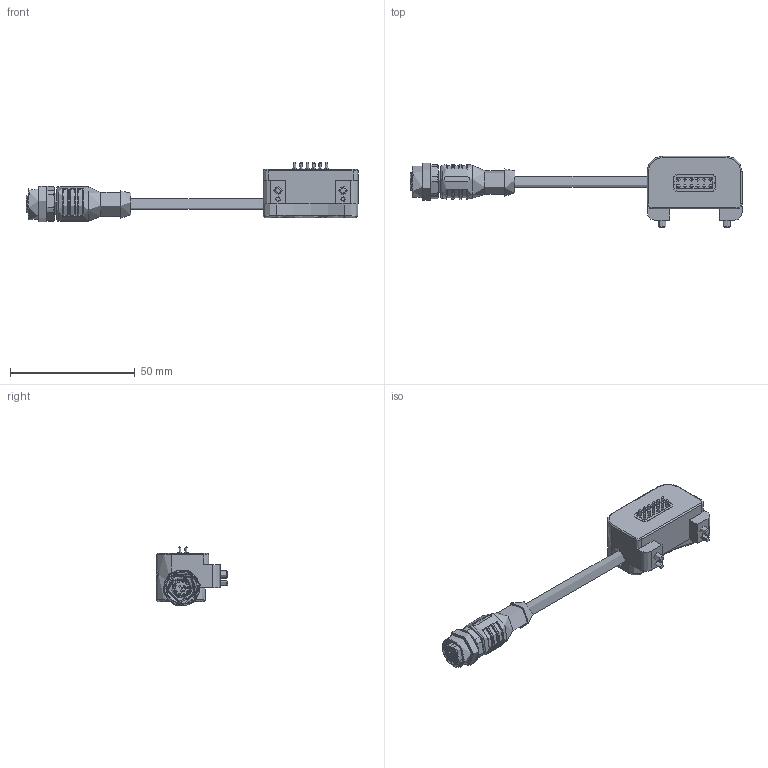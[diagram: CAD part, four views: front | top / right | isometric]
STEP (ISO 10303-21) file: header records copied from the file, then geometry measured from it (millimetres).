
FILE_DESCRIPTION(/* description */ (''),/* implementation_level */ '2;1');
FILE_NAME(/* name */ 'G-SEK100-U-1FE12-300-M12.stp',/* time_stamp */ '2023-12-19T13:50:27+01:00',/* author */ ('vbednarz'),/* organization */ (''),/* preprocessor_version */ 'ST-DEVELOPER v20',/* originating_system */ 'Autodesk Inventor 2024',/* authorisation */ '');
FILE_SCHEMA (('AUTOMOTIVE_DESIGN { 1 0 10303 214 3 1 1 }'));
Length unit declared in the file: millimetre
Products named in the file (1): G-SEK100-U-1FE12-300-M12
Bounding box: 132.84 x 28.5 x 23.89 mm (x, y, z)
Volume: 20721.3 mm3; surface area: 9760.7 mm2
Topology: 6 solids, 6 shells, 642 faces, 1546 edges, 1004 vertices
Faces by surface type: plane 264, bspline 152, cylinder 134, cone 46, torus 46
Full cylindrical faces by diameter (mm): 0.7 x12, 1.07 x12, 1.5 x12, 1.8 x2, 2 x2, 2.02 x2, 2.05 x4, 3 x2, 3.4 x2, 4.5 x4, 5 x4, 5.2 x1, 5.5 x2, 5.8 x1, 6 x2, 8.7 x1, 10.2 x1, 10.95 x1, 12.3 x1, 12.8 x1, 14 x1, 15 x1
Entity records: 25299 total; most frequent: CARTESIAN_POINT 10190, ORIENTED_EDGE 3076, DIRECTION 2758, EDGE_CURVE 1538, AXIS2_PLACEMENT_3D 1030, VERTEX_POINT 1004, EDGE_LOOP 744, LINE 698
